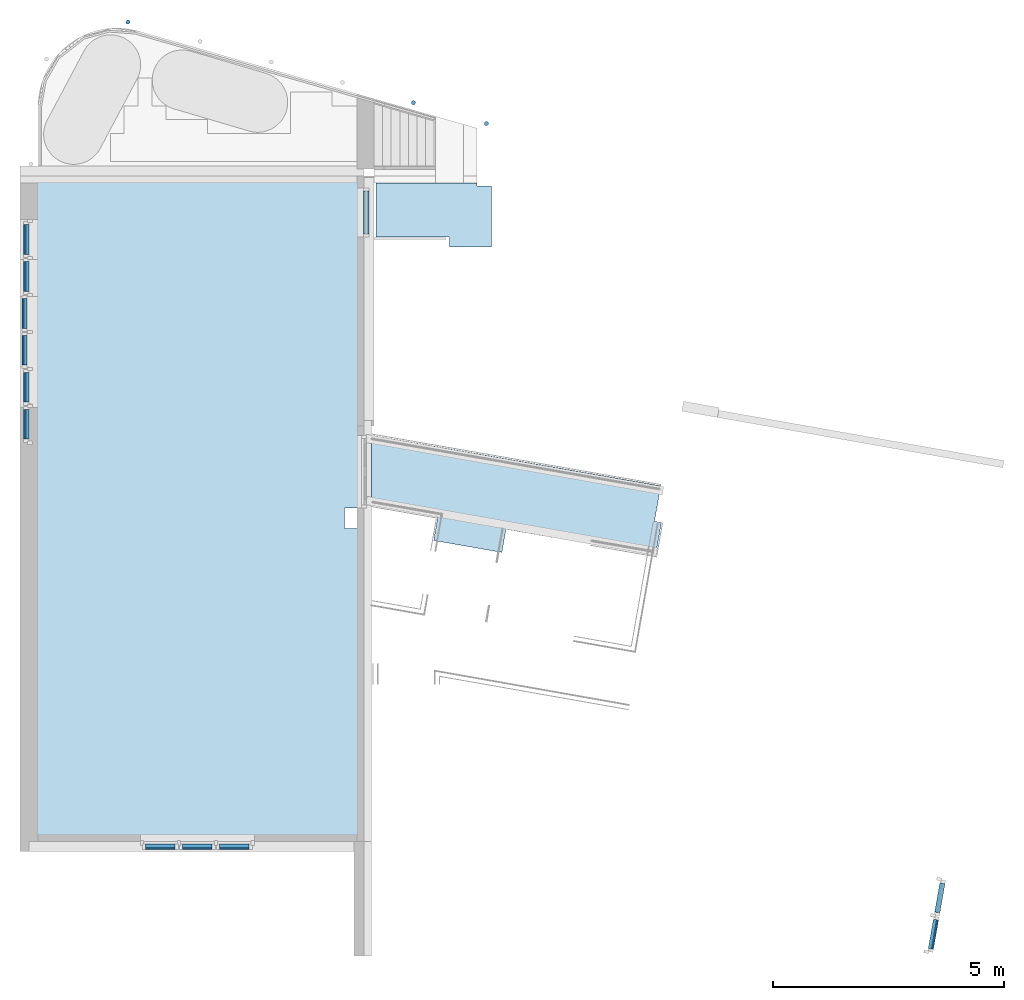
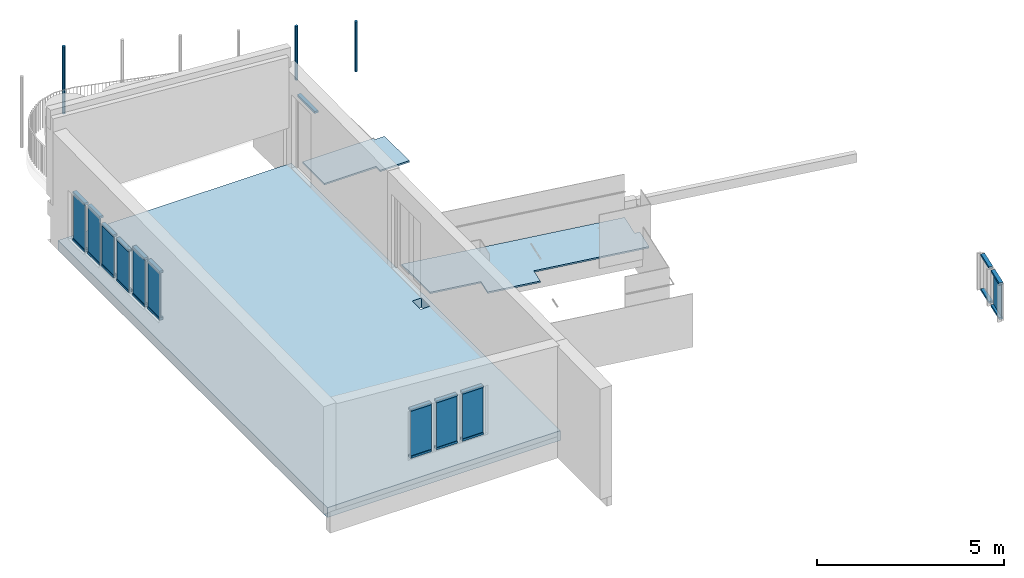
# One storey, part 3 of 10: 26 members, 10 plates, 3 slabs, 1 opening, 14 elements without a shape of their own.
"""IFC2X3 building model written with IfcOpenShell, lengths in millimetres."""

import ifcopenshell
import ifcopenshell.guid

model = None  # the IFC model being written
_history = None  # IfcOwnerHistory: only IFC2X3 demands one
_inside = {}  # id of a spatial element -> (the spatial element, [elements in it])
_under = {}  # id of a project, library or spatial element -> (it, [spatial elements below it])
_declared = {}  # id of a project -> (the project, [libraries it declares])
_typed = {}  # id of a type object -> (the type object, [elements of that type])
_made_of = {}  # id of a material, layer set ... -> (it, [elements and type objects made of it])


def new_model(schema):
    """Start an empty IFC model of exactly this schema.

    Asked for "IFC4X3", IfcOpenShell would pick the latest addendum, in which some entities
    have other attributes; the version numbers below select the first issue.
    IFC2X3 requires an IfcOwnerHistory on every rooted entity: one is made here for all.
    """
    global model, _history
    if schema == "IFC4X3":
        model = ifcopenshell.file(schema_version=(4, 3, 0, 0))
    else:
        model = ifcopenshell.file(schema=schema)
    _inside.clear()
    _under.clear()
    _declared.clear()
    _typed.clear()
    _made_of.clear()
    _history = None
    if model.schema == "IFC2X3":
        org = make("IfcOrganization", Name="unknown")
        user = make(
            "IfcPersonAndOrganization",
            ThePerson=make("IfcPerson", FamilyName="unknown"),
            TheOrganization=org,
        )
        app = make(
            "IfcApplication",
            ApplicationDeveloper=org,
            Version="unknown",
            ApplicationFullName="unknown",
            ApplicationIdentifier="unknown",
        )
        _history = make(
            "IfcOwnerHistory",
            OwningUser=user,
            OwningApplication=app,
            ChangeAction="ADDED",
            CreationDate=0,
        )
    return model


def make(cls, **values):
    """One entity of the class cls with the attributes given. An attribute that is None is left unset."""
    return model.create_entity(
        cls, **{name: value for name, value in values.items() if value is not None}
    )


def entity(cls, *values):
    """Any entity or typed value of the class cls, its attributes in the order of the schema. None: left unset."""
    e = model.create_entity(cls)
    for i, value in enumerate(values):
        if value is not None:
            e[i] = value
    return e


def rooted(cls, **values):
    """An entity with a GlobalId (a new one), such as an element, a storey or a relation."""
    return make(cls, GlobalId=ifcopenshell.guid.new(), OwnerHistory=_history, **values)


def si_unit(unit_type, name, prefix=None):
    """IfcSIUnit, for example si_unit("LENGTHUNIT", "METRE", prefix="MILLI")."""
    return make("IfcSIUnit", UnitType=unit_type, Prefix=prefix, Name=name)


def converted_unit(unit_type, name, factor, base, dimensions=None, offset=None):
    """IfcConversionBasedUnit, such as the inch: factor (a typed value) times the base unit."""
    return make(
        "IfcConversionBasedUnit"
        if offset is None
        else "IfcConversionBasedUnitWithOffset",
        ConversionOffset=offset,
        Dimensions=None
        if dimensions is None
        else entity("IfcDimensionalExponents", *dimensions),
        UnitType=unit_type,
        Name=name,
        ConversionFactor=make(
            "IfcMeasureWithUnit", ValueComponent=factor, UnitComponent=base
        ),
    )


def derived_unit(unit_type, elements):
    """IfcDerivedUnit: a product of units, each with its exponent."""
    return make(
        "IfcDerivedUnit",
        Elements=[
            make("IfcDerivedUnitElement", Unit=unit, Exponent=power)
            for unit, power in elements
        ],
        UnitType=unit_type,
    )


def assignment(units):
    """IfcUnitAssignment: the units of a project."""
    return None if units is None else make("IfcUnitAssignment", Units=units)


def point(xyz):
    """IfcCartesianPoint."""
    return None if xyz is None else make("IfcCartesianPoint", Coordinates=xyz)


def direction(xyz):
    """IfcDirection."""
    return None if xyz is None else make("IfcDirection", DirectionRatios=xyz)


def frame(location, z_axis=None, x_axis=None):
    """IfcAxis2Placement3D, a coordinate frame: its origin and axes. An axis left out is left unset."""
    return make(
        "IfcAxis2Placement3D",
        Location=point(location),
        Axis=direction(z_axis),
        RefDirection=direction(x_axis),
    )


def frame_2d(location, x_axis=None):
    """IfcAxis2Placement2D, a coordinate frame in the plane: its origin and x axis."""
    return make(
        "IfcAxis2Placement2D", Location=point(location), RefDirection=direction(x_axis)
    )


def origin():
    """The frame at (0, 0, 0) with its axes left unset."""
    return frame((0.0, 0.0, 0.0))


def origin_2d_with_axis():
    """The frame at (0, 0) in the plane with the x axis (1, 0) written out."""
    return frame_2d((0.0, 0.0), x_axis=(1.0, 0.0))


def place(relative_to, where):
    """IfcLocalPlacement: puts the frame where relative to a parent placement (None: the world)."""
    return make(
        "IfcLocalPlacement", PlacementRelTo=relative_to, RelativePlacement=where
    )


def context(
    kind, dimensions, precision=None, world=None, true_north=None, identifier=None
):
    """IfcGeometricRepresentationContext, for example the 3D "Model" context."""
    return make(
        "IfcGeometricRepresentationContext",
        ContextIdentifier=identifier,
        ContextType=kind,
        CoordinateSpaceDimension=dimensions,
        Precision=precision,
        WorldCoordinateSystem=world,
        TrueNorth=true_north,
    )


def subcontext(parent, identifier, kind, view, scale=None):
    """IfcGeometricRepresentationSubContext, for example "Body" below "Model"."""
    return make(
        "IfcGeometricRepresentationSubContext",
        ContextIdentifier=identifier,
        ContextType=kind,
        ParentContext=parent,
        TargetScale=scale,
        TargetView=view,
    )


def project(units=None, contexts=None):
    """IfcProject with its units and contexts."""
    return rooted(
        "IfcProject",
        Name="project",
        RepresentationContexts=contexts,
        UnitsInContext=assignment(units),
    )


def spatial(cls, under=None, at=None, **own):
    """A site, building, storey or space (cls), placed at a placement, below another one or the project."""
    s = rooted(cls, ObjectPlacement=at, **own)
    if under is not None:
        _under.setdefault(under.id(), (under, []))[1].append(s)
    return s


def polyline(points):
    """IfcPolyline through the points."""
    return make("IfcPolyline", Points=[point(p) for p in points])


def profile(cls, at=None, kind="AREA", **sizes):
    """A parametric profile (cls). Its sizes go by their IFC names, for example OverallWidth=200.0."""
    return make(cls, ProfileType=kind, Position=at, **sizes)


def rectangle(**sizes):
    """IfcRectangleProfileDef."""
    return profile("IfcRectangleProfileDef", **sizes)


def circle(**sizes):
    """IfcCircleProfileDef."""
    return profile("IfcCircleProfileDef", **sizes)


def outline(outer, holes=None, kind="AREA"):
    """IfcArbitraryClosedProfileDef: a profile drawn as a closed curve; with holes, ...WithVoids."""
    if holes is None:
        return make("IfcArbitraryClosedProfileDef", ProfileType=kind, OuterCurve=outer)
    return make(
        "IfcArbitraryProfileDefWithVoids",
        ProfileType=kind,
        OuterCurve=outer,
        InnerCurves=holes,
    )


def extrude(swept, where, along, depth):
    """IfcExtrudedAreaSolid: the profile swept, set in the frame where, extruded along a direction by depth."""
    return make(
        "IfcExtrudedAreaSolid",
        SweptArea=swept,
        Position=where,
        ExtrudedDirection=direction(along),
        Depth=depth,
    )


def shape(context_of_items, identifier, shape_type, items):
    """IfcShapeRepresentation: the items that make up one representation, for example the "Body"."""
    return make(
        "IfcShapeRepresentation",
        ContextOfItems=context_of_items,
        RepresentationIdentifier=identifier,
        RepresentationType=shape_type,
        Items=items,
    )


def source(mapping_origin, context_of_items, identifier, shape_type, items):
    """IfcRepresentationMap: a shape defined once, which mapped items show again and again."""
    return make(
        "IfcRepresentationMap",
        MappingOrigin=mapping_origin,
        MappedRepresentation=shape(context_of_items, identifier, shape_type, items),
    )


def transform(
    local_origin,
    x_axis=None,
    y_axis=None,
    z_axis=None,
    scale=None,
    scale2=None,
    scale3=None,
    uniform=True,
):
    """IfcCartesianTransformationOperator3D, or its non-uniform kind. x_axis, y_axis, z_axis: its Axis1, 2, 3."""
    if uniform:
        return make(
            "IfcCartesianTransformationOperator3D",
            Axis1=direction(x_axis),
            Axis2=direction(y_axis),
            LocalOrigin=point(local_origin),
            Scale=scale,
            Axis3=direction(z_axis),
        )
    return make(
        "IfcCartesianTransformationOperator3DnonUniform",
        Axis1=direction(x_axis),
        Axis2=direction(y_axis),
        LocalOrigin=point(local_origin),
        Scale=scale,
        Axis3=direction(z_axis),
        Scale2=scale2,
        Scale3=scale3,
    )


def mapped(mapping_source, mapping_target):
    """IfcMappedItem: shows the shape of a source again, moved by a transform."""
    return make(
        "IfcMappedItem", MappingSource=mapping_source, MappingTarget=mapping_target
    )


def material(Name=None, Category=None):
    """IfcMaterial."""
    return make("IfcMaterial", Name=Name, Category=Category)


def layer(
    of_material, thickness, ventilated=None, Name=None, Category=None, Priority=None
):
    """IfcMaterialLayer: one layer of a wall or slab, of a material (None: an air gap)."""
    return make(
        "IfcMaterialLayer",
        Material=of_material,
        LayerThickness=thickness,
        IsVentilated=ventilated,
        Name=Name,
        Category=Category,
        Priority=Priority,
    )


def layer_set(layers, Name=None):
    """IfcMaterialLayerSet."""
    return make("IfcMaterialLayerSet", MaterialLayers=layers, LayerSetName=Name)


def layer_usage(for_layer_set, set_direction, sense, offset, extent=None):
    """IfcMaterialLayerSetUsage: how a layer set lies in its element."""
    return make(
        "IfcMaterialLayerSetUsage",
        ForLayerSet=for_layer_set,
        LayerSetDirection=set_direction,
        DirectionSense=sense,
        OffsetFromReferenceLine=offset,
        ReferenceExtent=extent,
    )


def made_of(thing, what):
    """Note that an element or type object is made of a material, layer set ...; save() writes the relation."""
    if what is not None:
        _made_of.setdefault(what.id(), (what, []))[1].append(thing)
    return thing


def type_object(cls, material=None, **own):
    """A type object (cls), such as IfcWallType, which elements share."""
    return made_of(rooted(cls, **own), material)


def type_shapes(of_type, sources):
    """Give a type object the sources (RepresentationMaps) that its elements show as mapped items."""
    of_type.RepresentationMaps = sources


def element(
    cls,
    number,
    at=None,
    inside=None,
    cuts=None,
    type_object=None,
    material=None,
    context=None,
    identifier="Body",
    shape_type=None,
    held_by="IfcProductDefinitionShape",
    body=None,
    shapes=None,
    **own,
):
    """One element of the class cls, such as IfcWall. Its Tag is "e" and its number.

    at: its placement. inside: the storey or other place that contains it. cuts: it is an
    opening in that element (IfcRelVoidsElement). A single representation is given by context,
    identifier, shape_type and body (its items); several are given by shapes. held_by: the class
    of the entity that holds the representations. save() writes the other relations.
    """
    e = rooted(cls, Tag="e%d" % number, ObjectPlacement=at, **own)
    if body is not None:
        shapes = [shape(context, identifier, shape_type, body)]
    if shapes is not None:
        e.Representation = make(held_by, Representations=shapes)
    if inside is not None:
        _inside.setdefault(inside.id(), (inside, []))[1].append(e)
    if cuts is not None:
        rooted(
            "IfcRelVoidsElement", RelatingBuildingElement=cuts, RelatedOpeningElement=e
        )
    if type_object is not None:
        _typed.setdefault(type_object.id(), (type_object, []))[1].append(e)
    return made_of(e, material)


def aggregate(whole, parts):
    """IfcRelAggregates: a whole, such as a stair, and the parts it consists of."""
    return rooted("IfcRelAggregates", RelatingObject=whole, RelatedObjects=parts)


def save(model, path):
    """Write the relations noted so far, then the file.

    IfcRelAggregates (storeys below a building ...), IfcRelContainedInSpatialStructure (elements
    in a storey), IfcRelDefinesByType, IfcRelAssociatesMaterial and IfcRelDeclares: one each for
    every whole, place, type object, material and project.
    """
    for whole, parts in _under.values():
        aggregate(whole, parts)
    for where, things in _inside.values():
        rooted(
            "IfcRelContainedInSpatialStructure",
            RelatedElements=things,
            RelatingStructure=where,
        )
    for kind, things in _typed.values():
        rooted("IfcRelDefinesByType", RelatedObjects=things, RelatingType=kind)
    for what, things in _made_of.values():
        rooted("IfcRelAssociatesMaterial", RelatedObjects=things, RelatingMaterial=what)
    for by, libraries in _declared.values():
        rooted("IfcRelDeclares", RelatingContext=by, RelatedDefinitions=libraries)
    model.write(path)


model = new_model("IFC2X3")

# Units and contexts
model_context = context("Model", 3, precision=0.01, world=origin(), true_north=direction((6.12303176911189e-17, 1.0)))
body_context = subcontext(model_context, "Body", "Model", "MODEL_VIEW")
ifc_project = project(units=[si_unit("LENGTHUNIT", "METRE", prefix="MILLI"), si_unit("AREAUNIT", "SQUARE_METRE"), si_unit("VOLUMEUNIT", "CUBIC_METRE"), converted_unit("PLANEANGLEUNIT", "DEGREE", entity("IfcRatioMeasure", 0.0174532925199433), si_unit("PLANEANGLEUNIT", "RADIAN"), dimensions=[0, 0, 0, 0, 0, 0, 0]), si_unit("MASSUNIT", "GRAM", prefix="KILO"), derived_unit("MASSDENSITYUNIT", [(si_unit("MASSUNIT", "GRAM", prefix="KILO"), 1), (si_unit("LENGTHUNIT", "METRE"), -3)]), derived_unit("MOMENTOFINERTIAUNIT", [(si_unit("LENGTHUNIT", "METRE"), 4)]), si_unit("TIMEUNIT", "SECOND"), si_unit("FREQUENCYUNIT", "HERTZ"), si_unit("THERMODYNAMICTEMPERATUREUNIT", "DEGREE_CELSIUS"), derived_unit("THERMALTRANSMITTANCEUNIT", [(si_unit("MASSUNIT", "GRAM", prefix="KILO"), 1), (si_unit("THERMODYNAMICTEMPERATUREUNIT", "KELVIN"), -1), (si_unit("TIMEUNIT", "SECOND"), -3)]), derived_unit("VOLUMETRICFLOWRATEUNIT", [(si_unit("LENGTHUNIT", "METRE"), 3), (si_unit("TIMEUNIT", "SECOND"), -1)]), si_unit("ELECTRICCURRENTUNIT", "AMPERE"), si_unit("ELECTRICVOLTAGEUNIT", "VOLT"), si_unit("POWERUNIT", "WATT"), si_unit("FORCEUNIT", "NEWTON", prefix="KILO"), si_unit("ILLUMINANCEUNIT", "LUX"), si_unit("LUMINOUSFLUXUNIT", "LUMEN"), si_unit("LUMINOUSINTENSITYUNIT", "CANDELA"), derived_unit("USERDEFINED", [(si_unit("MASSUNIT", "GRAM", prefix="KILO"), -1), (si_unit("LENGTHUNIT", "METRE"), -2), (si_unit("TIMEUNIT", "SECOND"), 3), (si_unit("LUMINOUSFLUXUNIT", "LUMEN"), 1)]), derived_unit("LINEARVELOCITYUNIT", [(si_unit("LENGTHUNIT", "METRE"), 1), (si_unit("TIMEUNIT", "SECOND"), -1)]), si_unit("PRESSUREUNIT", "PASCAL"), derived_unit("USERDEFINED", [(si_unit("LENGTHUNIT", "METRE"), -2), (si_unit("MASSUNIT", "GRAM", prefix="KILO"), 1), (si_unit("TIMEUNIT", "SECOND"), -2)]), derived_unit("LINEARFORCEUNIT", [(si_unit("MASSUNIT", "GRAM", prefix="KILO"), 1), (si_unit("LENGTHUNIT", "METRE"), 1), (si_unit("TIMEUNIT", "SECOND"), -2), (si_unit("LENGTHUNIT", "METRE"), -1)]), derived_unit("PLANARFORCEUNIT", [(si_unit("MASSUNIT", "GRAM", prefix="KILO"), 1), (si_unit("LENGTHUNIT", "METRE"), 1), (si_unit("TIMEUNIT", "SECOND"), -2), (si_unit("LENGTHUNIT", "METRE"), -2)])], contexts=[model_context])

# Site, building, storey
site_placement = place(None, origin())
site = spatial("IfcSite", under=ifc_project, at=site_placement, Name="<Kadaster Gemeente>;<Kadaster nummer>;<Kadaster sectie>", CompositionType="ELEMENT")
building_placement = place(site_placement, origin())
building = spatial("IfcBuilding", under=site, at=building_placement, Name="JRCZ Middelburg", CompositionType="ELEMENT")
storey_placement = place(building_placement, frame((0.0, 0.0, 3700.0)))
storey = spatial("IfcBuildingStorey", under=building, at=storey_placement, Name="02 tweede verdieping", CompositionType="ELEMENT", Elevation=3700.0)

# Curtain wall, member
curtain_wall_type_1 = type_object("IfcCurtainWallType", Name="Curtain Wall:NLRS_31_CW_Ontwerpkozijn 067x114 2", PredefinedType="NOTDEFINED")
curtain_wall_1_placement = place(storey_placement, frame((0.0, 0.0, -3700.0)))
curtain_wall_1 = element("IfcCurtainWall", 1, at=curtain_wall_1_placement, inside=storey, type_object=curtain_wall_type_1, Name="Curtain Wall:NLRS_31_CW_Ontwerpkozijn 067x114 2", ObjectType="Curtain Wall:NLRS_31_CW_Ontwerpkozijn 067x114 2")
ifc_material_1 = material(Name="RBM_a_kozijn")
member_type_1 = type_object("IfcMemberType", Name="Rectangular Mullion:31_CWM_067x114", PredefinedType="MULLION", material=ifc_material_1)
shared_shape_1 = source(origin(), body_context, "Body", "SweptSolid", [
    extrude(rectangle(XDim=113.999999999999, YDim=67.0, at=origin_2d_with_axis()), frame((-33.5, 57.0, -641.0), z_axis=(0.0, 0.0, 1.0), x_axis=(0.0, -1.0, 0.0)), (0.0, 0.0, 1.0), 640.999999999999),
])
type_shapes(member_type_1, [shared_shape_1])
member_1_placement = place(storey_placement, frame((29522.4129943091, 8317.20404928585, 1900.0), z_axis=(0.173648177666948, 0.984807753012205, 0.0), x_axis=(0.0, 0.0, 1.0)))
member_1 = element("IfcMember", 2, at=member_1_placement, type_object=member_type_1, material=ifc_material_1, Name="Rectangular Mullion:31_CWM_067x114", ObjectType="Rectangular Mullion:31_CWM_067x114", context=body_context, shape_type="MappedRepresentation", body=[
    mapped(shared_shape_1, transform((0.0, 0.0, 0.0), scale=1.0)),
])

curtain_wall_2_placement = place(storey_placement, frame((0.0, 0.0, -3700.0)))
curtain_wall_2 = element("IfcCurtainWall", 3, at=curtain_wall_2_placement, inside=storey, type_object=curtain_wall_type_1, Name="Curtain Wall:NLRS_31_CW_Ontwerpkozijn 067x114 2", ObjectType="Curtain Wall:NLRS_31_CW_Ontwerpkozijn 067x114 2")
member_2_placement = place(storey_placement, frame((29661.3315364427, 9105.05025169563, 1900.0), z_axis=(0.173648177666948, 0.984807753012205, 0.0), x_axis=(0.0, 0.0, 1.0)))
member_2 = element("IfcMember", 4, at=member_2_placement, type_object=member_type_1, material=ifc_material_1, Name="Rectangular Mullion:31_CWM_067x114", ObjectType="Rectangular Mullion:31_CWM_067x114", context=body_context, shape_type="MappedRepresentation", body=[
    mapped(shared_shape_1, transform((0.0, 0.0, 0.0), scale=1.0)),
])

curtain_wall_3_placement = place(storey_placement, frame((0.0, 0.0, -3700.0)))
curtain_wall_3 = element("IfcCurtainWall", 5, at=curtain_wall_3_placement, inside=storey, type_object=curtain_wall_type_1, Name="Curtain Wall:NLRS_31_CW_Ontwerpkozijn 067x114 2", ObjectType="Curtain Wall:NLRS_31_CW_Ontwerpkozijn 067x114 2")
member_3_placement = place(storey_placement, frame((9955.0, 21902.3639489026, 2300.0), z_axis=(0.0, -1.0, 0.0), x_axis=(0.0, 0.0, 1.0)))
member_3 = element("IfcMember", 6, at=member_3_placement, type_object=member_type_1, material=ifc_material_1, Name="Rectangular Mullion:31_CWM_067x114", ObjectType="Rectangular Mullion:31_CWM_067x114", context=body_context, shape_type="MappedRepresentation", body=[
    mapped(shared_shape_1, transform((0.0, 0.0, 0.0), scale=1.0)),
])

curtain_wall_4_placement = place(storey_placement, frame((0.0, 0.0, -3700.0)))
curtain_wall_4 = element("IfcCurtainWall", 7, at=curtain_wall_4_placement, inside=storey, type_object=curtain_wall_type_1, Name="Curtain Wall:NLRS_31_CW_Ontwerpkozijn 067x114 2", ObjectType="Curtain Wall:NLRS_31_CW_Ontwerpkozijn 067x114 2")
member_4_placement = place(storey_placement, frame((9915.0, 21102.3639489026, 2200.0), z_axis=(0.0, -1.0, 0.0), x_axis=(0.0, 0.0, 1.0)))
member_4 = element("IfcMember", 8, at=member_4_placement, type_object=member_type_1, material=ifc_material_1, Name="Rectangular Mullion:31_CWM_067x114", ObjectType="Rectangular Mullion:31_CWM_067x114", context=body_context, shape_type="MappedRepresentation", body=[
    mapped(shared_shape_1, transform((0.0, 0.0, 0.0), scale=1.0)),
])

curtain_wall_5_placement = place(storey_placement, frame((0.0, 0.0, -3700.0)))
curtain_wall_5 = element("IfcCurtainWall", 9, at=curtain_wall_5_placement, inside=storey, type_object=curtain_wall_type_1, Name="Curtain Wall:NLRS_31_CW_Ontwerpkozijn 067x114 2", ObjectType="Curtain Wall:NLRS_31_CW_Ontwerpkozijn 067x114 2")
member_5_placement = place(storey_placement, frame((9915.0, 20302.3639489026, 2200.0), z_axis=(0.0, -1.0, 0.0), x_axis=(0.0, 0.0, 1.0)))
member_5 = element("IfcMember", 10, at=member_5_placement, type_object=member_type_1, material=ifc_material_1, Name="Rectangular Mullion:31_CWM_067x114", ObjectType="Rectangular Mullion:31_CWM_067x114", context=body_context, shape_type="MappedRepresentation", body=[
    mapped(shared_shape_1, transform((0.0, 0.0, 0.0), scale=1.0)),
])

curtain_wall_6_placement = place(storey_placement, frame((0.0, 0.0, -3700.0)))
curtain_wall_6 = element("IfcCurtainWall", 11, at=curtain_wall_6_placement, inside=storey, type_object=curtain_wall_type_1, Name="Curtain Wall:NLRS_31_CW_Ontwerpkozijn 067x114 2", ObjectType="Curtain Wall:NLRS_31_CW_Ontwerpkozijn 067x114 2")
member_6_placement = place(storey_placement, frame((9955.0, 19502.3639489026, 2400.0), z_axis=(0.0, -1.0, 0.0), x_axis=(0.0, 0.0, 1.0)))
member_6 = element("IfcMember", 12, at=member_6_placement, type_object=member_type_1, material=ifc_material_1, Name="Rectangular Mullion:31_CWM_067x114", ObjectType="Rectangular Mullion:31_CWM_067x114", context=body_context, shape_type="MappedRepresentation", body=[
    mapped(shared_shape_1, transform((0.0, 0.0, 0.0), scale=1.0)),
])

curtain_wall_7_placement = place(storey_placement, frame((0.0, 0.0, -3700.0)))
curtain_wall_7 = element("IfcCurtainWall", 13, at=curtain_wall_7_placement, inside=storey, type_object=curtain_wall_type_1, Name="Curtain Wall:NLRS_31_CW_Ontwerpkozijn 067x114 2", ObjectType="Curtain Wall:NLRS_31_CW_Ontwerpkozijn 067x114 2")
member_7_placement = place(storey_placement, frame((9955.0, 18702.3639489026, 2450.0), z_axis=(0.0, -1.0, 0.0), x_axis=(0.0, 0.0, 1.0)))
member_7 = element("IfcMember", 14, at=member_7_placement, type_object=member_type_1, material=ifc_material_1, Name="Rectangular Mullion:31_CWM_067x114", ObjectType="Rectangular Mullion:31_CWM_067x114", context=body_context, shape_type="MappedRepresentation", body=[
    mapped(shared_shape_1, transform((0.0, 0.0, 0.0), scale=1.0)),
])

curtain_wall_8_placement = place(storey_placement, frame((0.0, 0.0, -3700.0)))
curtain_wall_8 = element("IfcCurtainWall", 15, at=curtain_wall_8_placement, inside=storey, type_object=curtain_wall_type_1, Name="Curtain Wall:NLRS_31_CW_Ontwerpkozijn 067x114 2", ObjectType="Curtain Wall:NLRS_31_CW_Ontwerpkozijn 067x114 2")
member_8_placement = place(storey_placement, frame((9955.0, 22702.3639489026, 2250.0), z_axis=(0.0, -1.0, 0.0), x_axis=(0.0, 0.0, 1.0)))
member_8 = element("IfcMember", 16, at=member_8_placement, type_object=member_type_1, material=ifc_material_1, Name="Rectangular Mullion:31_CWM_067x114", ObjectType="Rectangular Mullion:31_CWM_067x114", context=body_context, shape_type="MappedRepresentation", body=[
    mapped(shared_shape_1, transform((0.0, 0.0, 0.0), scale=1.0)),
])

curtain_wall_9_placement = place(storey_placement, frame((0.0, 0.0, -3700.0)))
curtain_wall_9 = element("IfcCurtainWall", 17, at=curtain_wall_9_placement, inside=storey, type_object=curtain_wall_type_1, Name="Curtain Wall:NLRS_31_CW_Ontwerpkozijn 067x114 2", ObjectType="Curtain Wall:NLRS_31_CW_Ontwerpkozijn 067x114 2")
member_9_placement = place(storey_placement, frame((14720.5000000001, 9942.0, 2400.0), z_axis=(1.0, 0.0, 0.0), x_axis=(0.0, 0.0, 1.0)))
member_9 = element("IfcMember", 18, at=member_9_placement, type_object=member_type_1, material=ifc_material_1, Name="Rectangular Mullion:31_CWM_067x114", ObjectType="Rectangular Mullion:31_CWM_067x114", context=body_context, shape_type="MappedRepresentation", body=[
    mapped(shared_shape_1, transform((0.0, 0.0, 0.0), scale=1.0)),
])

curtain_wall_10_placement = place(storey_placement, frame((0.0, 0.0, -3700.0)))
curtain_wall_10 = element("IfcCurtainWall", 19, at=curtain_wall_10_placement, inside=storey, type_object=curtain_wall_type_1, Name="Curtain Wall:NLRS_31_CW_Ontwerpkozijn 067x114 2", ObjectType="Curtain Wall:NLRS_31_CW_Ontwerpkozijn 067x114 2")
member_10_placement = place(storey_placement, frame((13920.5000000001, 9942.0, 2400.0), z_axis=(1.0, 0.0, 0.0), x_axis=(0.0, 0.0, 1.0)))
member_10 = element("IfcMember", 20, at=member_10_placement, type_object=member_type_1, material=ifc_material_1, Name="Rectangular Mullion:31_CWM_067x114", ObjectType="Rectangular Mullion:31_CWM_067x114", context=body_context, shape_type="MappedRepresentation", body=[
    mapped(shared_shape_1, transform((0.0, 0.0, 0.0), scale=1.0)),
])

curtain_wall_11_placement = place(storey_placement, frame((0.0, 0.0, -3700.0)))
curtain_wall_11 = element("IfcCurtainWall", 21, at=curtain_wall_11_placement, inside=storey, type_object=curtain_wall_type_1, Name="Curtain Wall:NLRS_31_CW_Ontwerpkozijn 067x114 2", ObjectType="Curtain Wall:NLRS_31_CW_Ontwerpkozijn 067x114 2")
member_11_placement = place(storey_placement, frame((13120.5000000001, 9942.0, 2400.0), z_axis=(1.0, 0.0, 0.0), x_axis=(0.0, 0.0, 1.0)))
member_11 = element("IfcMember", 22, at=member_11_placement, type_object=member_type_1, material=ifc_material_1, Name="Rectangular Mullion:31_CWM_067x114", ObjectType="Rectangular Mullion:31_CWM_067x114", context=body_context, shape_type="MappedRepresentation", body=[
    mapped(shared_shape_1, transform((0.0, 0.0, 0.0), scale=1.0)),
])

# Member
member_type_2 = type_object("IfcMemberType", Name="Rectangular Mullion:31_CWM_067x114", PredefinedType="MULLION", material=ifc_material_1)
shared_shape_2 = source(origin(), body_context, "Body", "SweptSolid", [
    extrude(rectangle(XDim=113.999999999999, YDim=67.0, at=origin_2d_with_axis()), frame((-33.5, 57.0, -641.0), z_axis=(0.0, 0.0, 1.0), x_axis=(0.0, -1.0, 0.0)), (0.0, 0.0, 1.0), 640.999999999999),
])
type_shapes(member_type_2, [shared_shape_2])
member_12_placement = place(storey_placement, frame((29411.1045124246, 7685.94227960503, 700.0), z_axis=(-0.173648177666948, -0.984807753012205, 0.0), x_axis=(0.0, 0.0, -1.0)))
member_12 = element("IfcMember", 23, at=member_12_placement, type_object=member_type_2, material=ifc_material_1, Name="Rectangular Mullion:31_CWM_067x114", ObjectType="Rectangular Mullion:31_CWM_067x114", context=body_context, shape_type="MappedRepresentation", body=[
    mapped(shared_shape_2, transform((0.0, 0.0, 0.0), scale=1.0)),
])

member_13_placement = place(storey_placement, frame((29550.0230545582, 8473.78848201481, 700.0), z_axis=(-0.173648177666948, -0.984807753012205, 0.0), x_axis=(0.0, 0.0, -1.0)))
member_13 = element("IfcMember", 24, at=member_13_placement, type_object=member_type_2, material=ifc_material_1, Name="Rectangular Mullion:31_CWM_067x114", ObjectType="Rectangular Mullion:31_CWM_067x114", context=body_context, shape_type="MappedRepresentation", body=[
    mapped(shared_shape_2, transform((0.0, 0.0, 0.0), scale=1.0)),
])

aggregate(curtain_wall_2, [member_2, member_13])

member_14_placement = place(storey_placement, frame((9955.0, 22543.3639489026, 700.0), z_axis=(0.0, 1.0, 0.0), x_axis=(0.0, 0.0, -1.0)))
member_14 = element("IfcMember", 25, at=member_14_placement, type_object=member_type_2, material=ifc_material_1, Name="Rectangular Mullion:31_CWM_067x114", ObjectType="Rectangular Mullion:31_CWM_067x114", context=body_context, shape_type="MappedRepresentation", body=[
    mapped(shared_shape_2, transform((0.0, 0.0, 0.0), scale=1.0)),
])

member_15_placement = place(storey_placement, frame((9915.0, 21743.3639489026, 800.0), z_axis=(0.0, 1.0, 0.0), x_axis=(0.0, 0.0, -1.0)))
member_15 = element("IfcMember", 26, at=member_15_placement, type_object=member_type_2, material=ifc_material_1, Name="Rectangular Mullion:31_CWM_067x114", ObjectType="Rectangular Mullion:31_CWM_067x114", context=body_context, shape_type="MappedRepresentation", body=[
    mapped(shared_shape_2, transform((0.0, 0.0, 0.0), scale=1.0)),
])

member_16_placement = place(storey_placement, frame((9915.0, 20943.3639489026, 800.0), z_axis=(0.0, 1.0, 0.0), x_axis=(0.0, 0.0, -1.0)))
member_16 = element("IfcMember", 27, at=member_16_placement, type_object=member_type_2, material=ifc_material_1, Name="Rectangular Mullion:31_CWM_067x114", ObjectType="Rectangular Mullion:31_CWM_067x114", context=body_context, shape_type="MappedRepresentation", body=[
    mapped(shared_shape_2, transform((0.0, 0.0, 0.0), scale=1.0)),
])

member_17_placement = place(storey_placement, frame((9955.0, 20143.3639489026, 800.0), z_axis=(0.0, 1.0, 0.0), x_axis=(0.0, 0.0, -1.0)))
member_17 = element("IfcMember", 28, at=member_17_placement, type_object=member_type_2, material=ifc_material_1, Name="Rectangular Mullion:31_CWM_067x114", ObjectType="Rectangular Mullion:31_CWM_067x114", context=body_context, shape_type="MappedRepresentation", body=[
    mapped(shared_shape_2, transform((0.0, 0.0, 0.0), scale=1.0)),
])

member_18_placement = place(storey_placement, frame((9955.0, 19343.3639489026, 850.0), z_axis=(0.0, 1.0, 0.0), x_axis=(0.0, 0.0, -1.0)))
member_18 = element("IfcMember", 29, at=member_18_placement, type_object=member_type_2, material=ifc_material_1, Name="Rectangular Mullion:31_CWM_067x114", ObjectType="Rectangular Mullion:31_CWM_067x114", context=body_context, shape_type="MappedRepresentation", body=[
    mapped(shared_shape_2, transform((0.0, 0.0, 0.0), scale=1.0)),
])

member_19_placement = place(storey_placement, frame((9955.0, 23343.3639489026, 650.0), z_axis=(0.0, 1.0, 0.0), x_axis=(0.0, 0.0, -1.0)))
member_19 = element("IfcMember", 30, at=member_19_placement, type_object=member_type_2, material=ifc_material_1, Name="Rectangular Mullion:31_CWM_067x114", ObjectType="Rectangular Mullion:31_CWM_067x114", context=body_context, shape_type="MappedRepresentation", body=[
    mapped(shared_shape_2, transform((0.0, 0.0, 0.0), scale=1.0)),
])

member_20_placement = place(storey_placement, frame((14079.5000000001, 9942.0, 800.0), z_axis=(-1.0, 0.0, 0.0), x_axis=(0.0, 0.0, -1.0)))
member_20 = element("IfcMember", 31, at=member_20_placement, type_object=member_type_2, material=ifc_material_1, Name="Rectangular Mullion:31_CWM_067x114", ObjectType="Rectangular Mullion:31_CWM_067x114", context=body_context, shape_type="MappedRepresentation", body=[
    mapped(shared_shape_2, transform((0.0, 0.0, 0.0), scale=1.0)),
])

member_21_placement = place(storey_placement, frame((13279.5000000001, 9942.0, 800.0), z_axis=(-1.0, 0.0, 0.0), x_axis=(0.0, 0.0, -1.0)))
member_21 = element("IfcMember", 32, at=member_21_placement, type_object=member_type_2, material=ifc_material_1, Name="Rectangular Mullion:31_CWM_067x114", ObjectType="Rectangular Mullion:31_CWM_067x114", context=body_context, shape_type="MappedRepresentation", body=[
    mapped(shared_shape_2, transform((0.0, 0.0, 0.0), scale=1.0)),
])

member_22_placement = place(storey_placement, frame((12479.5000000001, 9942.0, 800.0), z_axis=(-1.0, 0.0, 0.0), x_axis=(0.0, 0.0, -1.0)))
member_22 = element("IfcMember", 33, at=member_22_placement, type_object=member_type_2, material=ifc_material_1, Name="Rectangular Mullion:31_CWM_067x114", ObjectType="Rectangular Mullion:31_CWM_067x114", context=body_context, shape_type="MappedRepresentation", body=[
    mapped(shared_shape_2, transform((0.0, 0.0, 0.0), scale=1.0)),
])

# Curtain wall, member
curtain_wall_type_2 = type_object("IfcCurtainWallType", Name="Curtain Wall:NLRS_31_CW_Ontwerpkozijn 067x114", PredefinedType="NOTDEFINED")
curtain_wall_12_placement = place(storey_placement, frame((0.0, 0.0, -3700.0)))
curtain_wall_12 = element("IfcCurtainWall", 34, at=curtain_wall_12_placement, inside=storey, type_object=curtain_wall_type_2, Name="Curtain Wall:NLRS_31_CW_Ontwerpkozijn 067x114", ObjectType="Curtain Wall:NLRS_31_CW_Ontwerpkozijn 067x114")
member_type_3 = type_object("IfcMemberType", Name="Rectangular Mullion:31_CWM_067x114", PredefinedType="MULLION", material=ifc_material_1)
shared_shape_3 = source(origin(), body_context, "Body", "SweptSolid", [
    extrude(rectangle(XDim=113.999999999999, YDim=67.0, at=origin_2d_with_axis()), frame((-33.5, -57.0, -930.0), z_axis=(0.0, 0.0, 1.0), x_axis=(0.0, -1.0, 0.0)), (0.0, 0.0, 1.0), 930.000000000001),
])
type_shapes(member_type_3, [shared_shape_3])
member_23_placement = place(storey_placement, frame((17197.0, 23141.0, 2400.0), z_axis=(0.0, -1.0, 0.0), x_axis=(0.0, 0.0, 1.0)))
member_23 = element("IfcMember", 35, at=member_23_placement, type_object=member_type_3, material=ifc_material_1, Name="Rectangular Mullion:31_CWM_067x114", ObjectType="Rectangular Mullion:31_CWM_067x114", context=body_context, shape_type="MappedRepresentation", body=[
    mapped(shared_shape_3, transform((0.0, 0.0, 0.0), scale=1.0)),
])
aggregate(curtain_wall_12, [member_23])

# Curtain wall, members
curtain_wall_type_3 = type_object("IfcCurtainWallType", PredefinedType="NOTDEFINED")
curtain_wall_13_placement = place(storey_placement, frame((0.0, 0.0, -3700.0)))
curtain_wall_13 = element("IfcCurtainWall", 36, at=curtain_wall_13_placement, inside=storey, type_object=curtain_wall_type_3)
ifc_material_2 = material(Name="Staal")
member_type_4 = type_object("IfcMemberType", Name="Rectangular Mullion:kolom rond 90", PredefinedType="MULLION", material=ifc_material_2)
shared_shape_4 = source(origin(), body_context, "Body", "SweptSolid", [
    extrude(circle(Radius=45.0, at=frame_2d((-4.22994972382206e-15, 6.84695561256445e-14), x_axis=(1.0, 0.0))), frame((0.0, 0.0, -1756.71813944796), z_axis=(0.0, 0.0, 1.0), x_axis=(-1.0, 0.0, 0.0)), (0.0, 0.0, 1.0), 1756.71813944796),
])
type_shapes(member_type_4, [shared_shape_4])
placement = place(building_placement, frame((0.0, 0.0, 6000.0)))
member_24_placement = place(placement, frame((18272.9575177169, 25981.7334687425, -950.0), z_axis=(0.0, 0.0, -1.0), x_axis=(0.96126169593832, -0.275637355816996, 0.0)))
member_24 = element("IfcMember", 37, at=member_24_placement, type_object=member_type_4, material=ifc_material_2, Name="Rectangular Mullion:kolom rond 90", ObjectType="Rectangular Mullion:kolom rond 90", context=body_context, shape_type="MappedRepresentation", body=[
    mapped(shared_shape_4, transform((0.0, 0.0, 0.0), scale=1.0)),
])
member_type_5 = type_object("IfcMemberType", Name="Rectangular Mullion:kolom rond 90", PredefinedType="MULLION", material=ifc_material_2)
shared_shape_5 = source(origin(), body_context, "Body", "SweptSolid", [
    extrude(circle(Radius=45.0, at=frame_2d((-4.22994972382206e-15, 6.84695561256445e-14), x_axis=(1.0, 0.0))), frame((0.0, 0.0, -1632.83805535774), z_axis=(0.0, 0.0, 1.0), x_axis=(-1.0, 0.0, 0.0)), (0.0, 0.0, 1.0), 1632.83805535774),
])
type_shapes(member_type_5, [shared_shape_5])
member_25_placement = place(placement, frame((19852.0087602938, 25528.9478110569, -950.0), z_axis=(0.0, 0.0, -1.0), x_axis=(0.96126169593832, -0.275637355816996, 0.0)))
member_25 = element("IfcMember", 38, at=member_25_placement, type_object=member_type_5, material=ifc_material_2, Name="Rectangular Mullion:kolom rond 90", ObjectType="Rectangular Mullion:kolom rond 90", context=body_context, shape_type="MappedRepresentation", body=[
    mapped(shared_shape_5, transform((0.0, 0.0, 0.0), scale=1.0)),
])
aggregate(curtain_wall_13, [member_24, member_25])

# Curtain wall, member
curtain_wall_14_placement = place(storey_placement, frame((0.0, 0.0, -3700.0)))
curtain_wall_14 = element("IfcCurtainWall", 39, at=curtain_wall_14_placement, inside=storey, type_object=curtain_wall_type_3)
member_type_6 = type_object("IfcMemberType", Name="Rectangular Mullion:kolom rond 90", PredefinedType="MULLION", material=ifc_material_2)
shared_shape_6 = source(origin(), body_context, "Body", "SweptSolid", [
    extrude(circle(Radius=45.0, at=frame_2d((-4.22994972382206e-15, 6.84695561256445e-14), x_axis=(1.0, 0.0))), frame((0.0, 0.0, -2200.0414871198), z_axis=(0.0, 0.0, 1.0), x_axis=(-1.0, 0.0, 0.0)), (0.0, 0.0, 1.0), 2200.0414871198),
])
type_shapes(member_type_6, [shared_shape_6])
member_26_placement = place(storey_placement, frame((12097.4369088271, 27726.0375567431, 1350.0), z_axis=(0.0, 0.0, -1.0), x_axis=(0.993447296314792, -0.114291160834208, 0.0)))
member_26 = element("IfcMember", 40, at=member_26_placement, type_object=member_type_6, material=ifc_material_2, Name="Rectangular Mullion:kolom rond 90", ObjectType="Rectangular Mullion:kolom rond 90", context=body_context, shape_type="MappedRepresentation", body=[
    mapped(shared_shape_6, transform((0.0, 0.0, 0.0), scale=1.0)),
])
aggregate(curtain_wall_14, [member_26])

# Slab, opening
ifc_material_3 = material(Name="RBM_i4_multiplex_beplating")
ifc_layer_1 = layer(ifc_material_3, 320.0)
ifc_layer_set_1 = layer_set([ifc_layer_1], Name="Floor:RBM_23_FL_houten kanaalplaat-320mm")
ifc_layer_usage_1 = layer_usage(ifc_layer_set_1, "AXIS3", "POSITIVE", 0.0)
slab_type_1 = type_object("IfcSlabType", Name="Floor:RBM_23_FL_houten kanaalplaat-320mm", PredefinedType="FLOOR", material=ifc_layer_set_1)
slab_1_placement = place(storey_placement, frame((10000.0, 10000.0, -365.0)))
slab_1 = element("IfcSlab", 41, at=slab_1_placement, inside=storey, type_object=slab_type_1, material=ifc_layer_usage_1, Name="Floor:RBM_23_FL_houten kanaalplaat-320mm", ObjectType="Floor:RBM_23_FL_houten kanaalplaat-320mm", PredefinedType="FLOOR", context=body_context, shape_type="SweptSolid", body=[
    extrude(rectangle(XDim=14400.0, YDim=7200.0, at=frame_2d((0.0, 0.0), x_axis=(0.0, 1.0))), frame((3600.0, 7200.0, 320.0), z_axis=(0.0, 0.0, -1.0), x_axis=(-1.0, 0.0, 0.0)), (0.0, 0.0, 1.0), 320.0),
])
opening_placement = place(storey_placement, frame((10000.0, 10000.0, -365.0)))
element("IfcOpeningElement", 42, at=opening_placement, cuts=slab_1, ObjectType="Opening", context=body_context, shape_type="SweptSolid", body=[
    extrude(rectangle(XDim=449.999999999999, YDim=300.000000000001, at=frame_2d((-3332.0, -209.910615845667), x_axis=(0.0, -1.0))), frame((3600.0, 7200.0, 320.0), z_axis=(0.0, 0.0, -1.0), x_axis=(-1.0, 0.0, 0.0)), (0.0, 0.0, 1.0), 320.0),
])

# Slab
ifc_material_4 = material(Name="traphout")
ifc_layer_2 = layer(ifc_material_4, 50.0)
ifc_layer_set_2 = layer_set([ifc_layer_2], Name="Floor:RBM_23_FL_houten vloer-brug")
ifc_layer_usage_2 = layer_usage(ifc_layer_set_2, "AXIS3", "POSITIVE", 0.0)
slab_type_2 = type_object("IfcSlabType", Name="Floor:RBM_23_FL_houten vloer-brug", PredefinedType="FLOOR", material=ifc_layer_set_2)
slab_2_placement = place(storey_placement, origin())
element("IfcSlab", 43, at=slab_2_placement, inside=storey, type_object=slab_type_2, material=ifc_layer_usage_2, Name="Floor:RBM_23_FL_houten vloer-brug", ObjectType="Floor:RBM_23_FL_houten vloer-brug", PredefinedType="FLOOR", context=body_context, shape_type="SweptSolid", body=[
    extrude(outline(polyline([(239.600856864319, -3328.730916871), (1759.40523363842, -3328.730916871), (665.927151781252, 2926.67564340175), (-104.899081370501, 2791.93114953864), (-131.141619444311, 2940.75997861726), (-843.82883170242, 2815.09399429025), (-277.933241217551, -422.19722158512), (-777.476281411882, -509.519981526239), (-519.186748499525, -1987.10427465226), (-10.4674386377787, -1898.17745434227), (239.600856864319, -3328.730916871)])), frame((20697.2309168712, 17030.0400636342, 0.0), z_axis=(0.0, 0.0, -1.0), x_axis=(0.0, 1.0, 0.0)), (0.0, 0.0, 1.0), 50.0),
])

# Plate
ifc_material_5 = material(Name="o1_glas")
plate_type_1 = type_object("IfcPlateType", Name="System Panel:31_CWP_glas_2", PredefinedType="CURTAIN_PANEL", material=ifc_material_5)
shared_shape_7 = source(origin(), body_context, "Body", "SweptSolid", [
    extrude(rectangle(XDim=24.0, YDim=640.999999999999, at=frame_2d((-7.99360577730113e-15, 0.0), x_axis=(1.0, 0.0))), frame((0.0, -85.0, 0.0), z_axis=(0.0, 0.0, 1.0), x_axis=(0.0, 1.0, 0.0)), (0.0, 0.0, 1.0), 1266.0),
])
type_shapes(plate_type_1, [shared_shape_7])
plate_1_placement = place(curtain_wall_4_placement, frame((9915.0, 21422.8639489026, 4567.0), z_axis=(0.0, 0.0, 1.0), x_axis=(0.0, -1.0, 0.0)))
plate_1 = element("IfcPlate", 44, at=plate_1_placement, type_object=plate_type_1, material=ifc_material_5, Name="System Panel:31_CWP_glas_2", ObjectType="System Panel:31_CWP_glas_2", context=body_context, shape_type="MappedRepresentation", body=[
    mapped(shared_shape_7, transform((0.0, 0.0, 0.0), scale=1.0)),
])

aggregate(curtain_wall_4, [plate_1, member_4, member_15])

plate_2_placement = place(curtain_wall_5_placement, frame((9915.0, 20622.8639489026, 4567.0), z_axis=(0.0, 0.0, 1.0), x_axis=(0.0, -1.0, 0.0)))
plate_2 = element("IfcPlate", 45, at=plate_2_placement, type_object=plate_type_1, material=ifc_material_5, Name="System Panel:31_CWP_glas_2", ObjectType="System Panel:31_CWP_glas_2", context=body_context, shape_type="MappedRepresentation", body=[
    mapped(shared_shape_7, transform((0.0, 0.0, 0.0), scale=1.0)),
])

aggregate(curtain_wall_5, [plate_2, member_5, member_16])

plate_type_2 = type_object("IfcPlateType", Name="System Panel:31_CWP_glas_2", PredefinedType="CURTAIN_PANEL", material=ifc_material_5)
shared_shape_8 = source(origin(), body_context, "Body", "SweptSolid", [
    extrude(rectangle(XDim=24.0, YDim=640.999999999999, at=frame_2d((-7.99360577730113e-15, 0.0), x_axis=(1.0, 0.0))), frame((0.0, -85.0, 0.0), z_axis=(0.0, 0.0, 1.0), x_axis=(0.0, 1.0, 0.0)), (0.0, 0.0, 1.0), 1066.0),
])
type_shapes(plate_type_2, [shared_shape_8])
plate_3_placement = place(curtain_wall_1_placement, frame((29466.7587533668, 8001.57316444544, 4467.0), z_axis=(0.0, 0.0, 1.0), x_axis=(0.17364817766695, 0.984807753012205, 0.0)))
plate_3 = element("IfcPlate", 46, at=plate_3_placement, type_object=plate_type_2, material=ifc_material_5, Name="System Panel:31_CWP_glas_2", ObjectType="System Panel:31_CWP_glas_2", context=body_context, shape_type="MappedRepresentation", body=[
    mapped(shared_shape_8, transform((0.0, 0.0, 0.0), scale=1.0)),
])

aggregate(curtain_wall_1, [plate_3, member_1, member_12])

plate_type_3 = type_object("IfcPlateType", Name="System Panel:31_CWP_glas_2", PredefinedType="CURTAIN_PANEL", material=ifc_material_5)
shared_shape_9 = source(origin(), body_context, "Body", "SweptSolid", [
    extrude(rectangle(XDim=24.0, YDim=640.999999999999, at=frame_2d((-7.99360577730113e-15, 0.0), x_axis=(1.0, 0.0))), frame((0.0, -85.0, 0.0), z_axis=(0.0, 0.0, 1.0), x_axis=(0.0, 1.0, 0.0)), (0.0, 0.0, 1.0), 1466.0),
])
type_shapes(plate_type_3, [shared_shape_9])
plate_4_placement = place(curtain_wall_3_placement, frame((9955.0, 22222.8639489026, 4467.0), z_axis=(0.0, 0.0, 1.0), x_axis=(0.0, -1.0, 0.0)))
plate_4 = element("IfcPlate", 47, at=plate_4_placement, type_object=plate_type_3, material=ifc_material_5, Name="System Panel:31_CWP_glas_2", ObjectType="System Panel:31_CWP_glas_2", context=body_context, shape_type="MappedRepresentation", body=[
    mapped(shared_shape_9, transform((0.0, 0.0, 0.0), scale=1.0)),
])

aggregate(curtain_wall_3, [plate_4, member_3, member_14])

plate_5_placement = place(curtain_wall_6_placement, frame((9955.0, 19822.8639489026, 4567.0), z_axis=(0.0, 0.0, 1.0), x_axis=(0.0, -1.0, 0.0)))
plate_5 = element("IfcPlate", 48, at=plate_5_placement, type_object=plate_type_3, material=ifc_material_5, Name="System Panel:31_CWP_glas_2", ObjectType="System Panel:31_CWP_glas_2", context=body_context, shape_type="MappedRepresentation", body=[
    mapped(shared_shape_9, transform((0.0, 0.0, 0.0), scale=1.0)),
])

aggregate(curtain_wall_6, [plate_5, member_6, member_17])

plate_6_placement = place(curtain_wall_7_placement, frame((9955.0, 19022.8639489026, 4617.0), z_axis=(0.0, 0.0, 1.0), x_axis=(0.0, -1.0, 0.0)))
plate_6 = element("IfcPlate", 49, at=plate_6_placement, type_object=plate_type_3, material=ifc_material_5, Name="System Panel:31_CWP_glas_2", ObjectType="System Panel:31_CWP_glas_2", context=body_context, shape_type="MappedRepresentation", body=[
    mapped(shared_shape_9, transform((0.0, 0.0, 0.0), scale=1.0)),
])

aggregate(curtain_wall_7, [plate_6, member_7, member_18])

plate_7_placement = place(curtain_wall_8_placement, frame((9955.0, 23022.8639489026, 4417.0), z_axis=(0.0, 0.0, 1.0), x_axis=(0.0, -1.0, 0.0)))
plate_7 = element("IfcPlate", 50, at=plate_7_placement, type_object=plate_type_3, material=ifc_material_5, Name="System Panel:31_CWP_glas_2", ObjectType="System Panel:31_CWP_glas_2", context=body_context, shape_type="MappedRepresentation", body=[
    mapped(shared_shape_9, transform((0.0, 0.0, 0.0), scale=1.0)),
])

aggregate(curtain_wall_8, [plate_7, member_8, member_19])

plate_8_placement = place(curtain_wall_9_placement, frame((14400.0, 9942.0, 4567.0)))
plate_8 = element("IfcPlate", 51, at=plate_8_placement, type_object=plate_type_3, material=ifc_material_5, Name="System Panel:31_CWP_glas_2", ObjectType="System Panel:31_CWP_glas_2", context=body_context, shape_type="MappedRepresentation", body=[
    mapped(shared_shape_9, transform((0.0, 0.0, 0.0), scale=1.0)),
])

aggregate(curtain_wall_9, [plate_8, member_9, member_20])

plate_9_placement = place(curtain_wall_10_placement, frame((13600.0, 9942.0, 4567.0)))
plate_9 = element("IfcPlate", 52, at=plate_9_placement, type_object=plate_type_3, material=ifc_material_5, Name="System Panel:31_CWP_glas_2", ObjectType="System Panel:31_CWP_glas_2", context=body_context, shape_type="MappedRepresentation", body=[
    mapped(shared_shape_9, transform((0.0, 0.0, 0.0), scale=1.0)),
])

aggregate(curtain_wall_10, [plate_9, member_10, member_21])

plate_10_placement = place(curtain_wall_11_placement, frame((12800.0, 9942.0, 4567.0)))
plate_10 = element("IfcPlate", 53, at=plate_10_placement, type_object=plate_type_3, material=ifc_material_5, Name="System Panel:31_CWP_glas_2", ObjectType="System Panel:31_CWP_glas_2", context=body_context, shape_type="MappedRepresentation", body=[
    mapped(shared_shape_9, transform((0.0, 0.0, 0.0), scale=1.0)),
])

aggregate(curtain_wall_11, [plate_10, member_11, member_22])

# Slab
ifc_material_6 = material(Name="Roostervloer")
ifc_layer_3 = layer(ifc_material_6, 50.0)
ifc_layer_set_3 = layer_set([ifc_layer_3], Name="Floor:RBM_43_FL_roostervloer")
ifc_layer_usage_3 = layer_usage(ifc_layer_set_3, "AXIS3", "POSITIVE", 0.0)
slab_type_3 = type_object("IfcSlabType", Name="Floor:RBM_43_FL_roostervloer", PredefinedType="FLOOR", material=ifc_layer_set_3)
slab_3_placement = place(storey_placement, origin())
element("IfcSlab", 54, at=slab_3_placement, inside=storey, type_object=slab_type_3, material=ifc_layer_usage_3, Name="Floor:RBM_43_FL_roostervloer", ObjectType="Floor:RBM_43_FL_roostervloer", PredefinedType="FLOOR", context=body_context, shape_type="SweptSolid", body=[
    extrude(outline(polyline([(-518.46939632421, -1569.74301804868), (657.71846198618, -1569.74301804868), (657.71846198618, 617.889842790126), (591.718461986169, 617.889842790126), (591.718461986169, 925.926587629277), (-730.967527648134, 925.926587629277), (-730.967527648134, 25.9265876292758), (-518.46939632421, 25.9265876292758), (-518.46939632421, -1569.74301804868)])), frame((19031.7430180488, 23592.2815380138, 0.0), z_axis=(0.0, 0.0, -1.0), x_axis=(0.0, 1.0, 0.0)), (0.0, 0.0, 1.0), 50.0),
])

save(model, "model.ifc")
